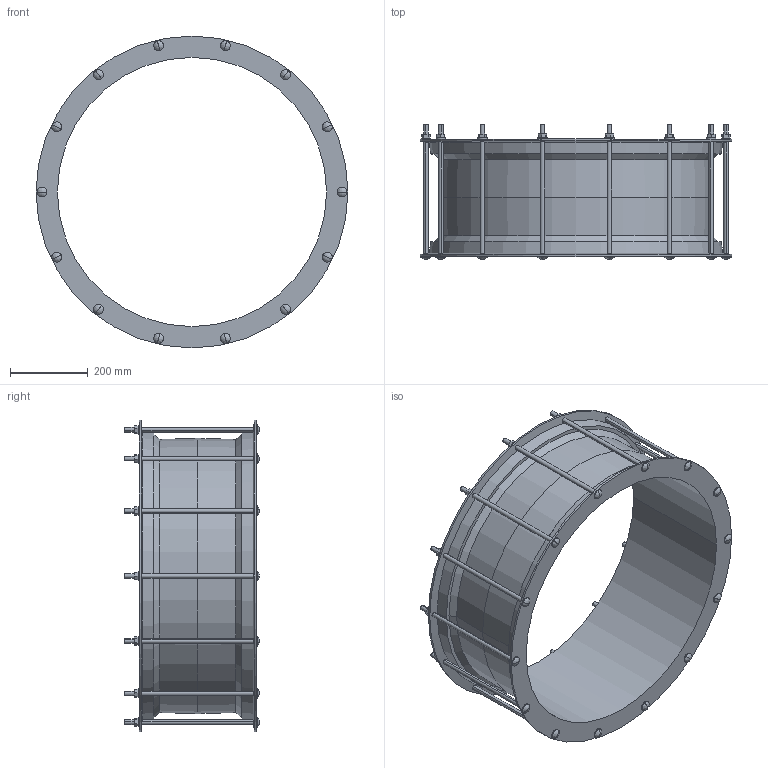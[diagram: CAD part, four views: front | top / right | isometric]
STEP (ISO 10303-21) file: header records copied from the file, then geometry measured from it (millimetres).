
FILE_DESCRIPTION((''),'2;1');
FILE_NAME('MAXIFIT_675_692','2018-12-18T',('mfairey'),('Glynwed Pipe Systems'),'CREO PARAMETRIC BY PTC INC, 2016130','CREO PARAMETRIC BY PTC INC, 2016130','');
FILE_SCHEMA(('CONFIG_CONTROL_DESIGN'));
Length unit declared in the file: millimetre
Products named in the file (1): MAXIFIT_675_692
Bounding box: 804 x 348 x 804 mm (x, y, z)
Volume: 10105865.4 mm3; surface area: 1950630.5 mm2
Topology: 1 solids, 1 shells, 292 faces, 708 edges, 444 vertices
Faces by surface type: plane 130, cylinder 118, bspline 28, cone 16
Entity records: 10586 total; most frequent: CARTESIAN_POINT 3818, DIRECTION 1370, ORIENTED_EDGE 1360, EDGE_CURVE 680, AXIS2_PLACEMENT_3D 490, VERTEX_POINT 444, VECTOR 390, LINE 390
